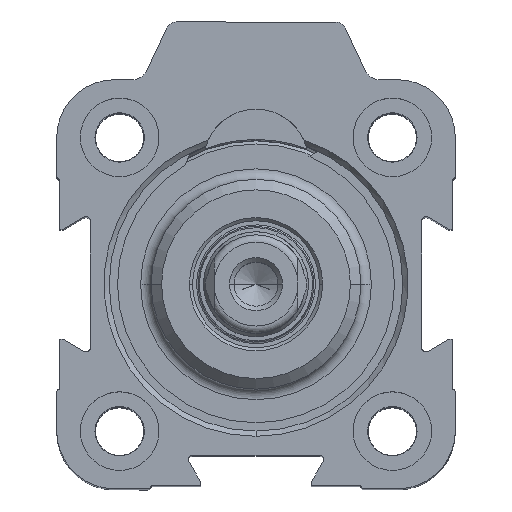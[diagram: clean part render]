
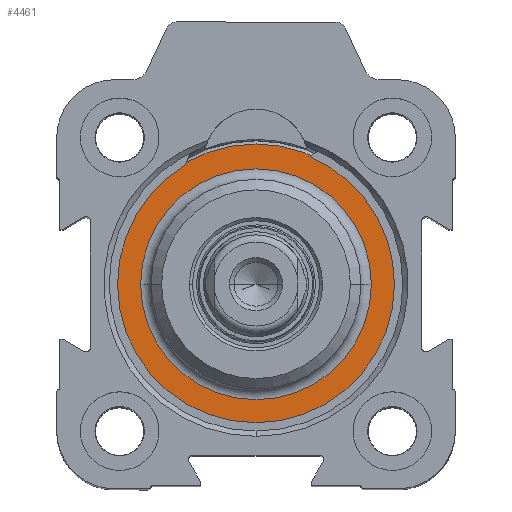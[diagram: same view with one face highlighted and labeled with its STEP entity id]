
A CAD part, top view. The second image highlights one B-rep face of the part: STEP entity #4461.
In plain terms, the highlighted planar face has unit normal (0, 0, 1) as drawn and (-1, 0, 0) by its records, which use the part's own axes.
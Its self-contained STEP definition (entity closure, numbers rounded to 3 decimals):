
#45 = DIRECTION ( 'NONE',  ( -1., 0., 0. ) ) ;
#80 = CARTESIAN_POINT ( 'NONE',  ( 2.75, 0., 13.375 ) ) ;
#1019 = ORIENTED_EDGE ( 'NONE', *, *, #2553, .F. ) ;
#1192 = VERTEX_POINT ( 'NONE', #8924 ) ;
#1615 = CARTESIAN_POINT ( 'NONE',  ( 2.75, 13.675, 0. ) ) ;
#2553 = EDGE_CURVE ( 'NONE', #12187, #1192, #9085, .T. ) ;
#3052 = CARTESIAN_POINT ( 'NONE',  ( 2.75, 0., 0. ) ) ;
#3065 = CIRCLE ( 'NONE', #5081, 13.375 ) ;
#3145 = DIRECTION ( 'NONE',  ( 0., 0., -1. ) ) ;
#3554 = CIRCLE ( 'NONE', #5941, 13.375 ) ;
#3609 = DIRECTION ( 'NONE',  ( 0., 0., -1. ) ) ;
#4146 = DIRECTION ( 'NONE',  ( -1., 0., 0. ) ) ;
#4358 = CARTESIAN_POINT ( 'NONE',  ( 2.75, 0., 0. ) ) ;
#4415 = AXIS2_PLACEMENT_3D ( 'NONE', #12341, #4146, #6107 ) ;
#4461 = ADVANCED_FACE ( 'NONE', ( #9214, #8410 ), #5640, .F. ) ;
#4626 = AXIS2_PLACEMENT_3D ( 'NONE', #3052, #8382, #5169 ) ;
#5081 = AXIS2_PLACEMENT_3D ( 'NONE', #11503, #45, #3145 ) ;
#5169 = DIRECTION ( 'NONE',  ( 0., 0., 1. ) ) ;
#5406 = DIRECTION ( 'NONE',  ( 0., 0., -1. ) ) ;
#5572 = CARTESIAN_POINT ( 'NONE',  ( 2.75, 0., -13.375 ) ) ;
#5640 = PLANE ( 'NONE',  #7968 ) ;
#5846 = ORIENTED_EDGE ( 'NONE', *, *, #7798, .F. ) ;
#5941 = AXIS2_PLACEMENT_3D ( 'NONE', #4358, #9667, #5406 ) ;
#6107 = DIRECTION ( 'NONE',  ( 0., 0., 1. ) ) ;
#6290 = EDGE_LOOP ( 'NONE', ( #5846, #1019 ) ) ;
#6433 = ORIENTED_EDGE ( 'NONE', *, *, #6740, .T. ) ;
#6594 = EDGE_CURVE ( 'NONE', #7856, #11862, #3065, .T. ) ;
#6740 = EDGE_CURVE ( 'NONE', #11862, #7856, #3554, .T. ) ;
#7282 = CARTESIAN_POINT ( 'NONE',  ( 2.75, 0., -11. ) ) ;
#7726 = DIRECTION ( 'NONE',  ( 1., 0., 0. ) ) ;
#7798 = EDGE_CURVE ( 'NONE', #1192, #12187, #10544, .T. ) ;
#7856 = VERTEX_POINT ( 'NONE', #80 ) ;
#7968 = AXIS2_PLACEMENT_3D ( 'NONE', #1615, #7726, #3609 ) ;
#8382 = DIRECTION ( 'NONE',  ( -1., 0., 0. ) ) ;
#8410 = FACE_BOUND ( 'NONE', #6290, .T. ) ;
#8924 = CARTESIAN_POINT ( 'NONE',  ( 2.75, 0., 11. ) ) ;
#9085 = CIRCLE ( 'NONE', #4415, 11. ) ;
#9214 = FACE_OUTER_BOUND ( 'NONE', #11308, .T. ) ;
#9667 = DIRECTION ( 'NONE',  ( -1., 0., 0. ) ) ;
#10544 = CIRCLE ( 'NONE', #4626, 11. ) ;
#11308 = EDGE_LOOP ( 'NONE', ( #6433, #12040 ) ) ;
#11503 = CARTESIAN_POINT ( 'NONE',  ( 2.75, 0., 0. ) ) ;
#11862 = VERTEX_POINT ( 'NONE', #5572 ) ;
#12040 = ORIENTED_EDGE ( 'NONE', *, *, #6594, .T. ) ;
#12187 = VERTEX_POINT ( 'NONE', #7282 ) ;
#12341 = CARTESIAN_POINT ( 'NONE',  ( 2.75, 0., 0. ) ) ;
